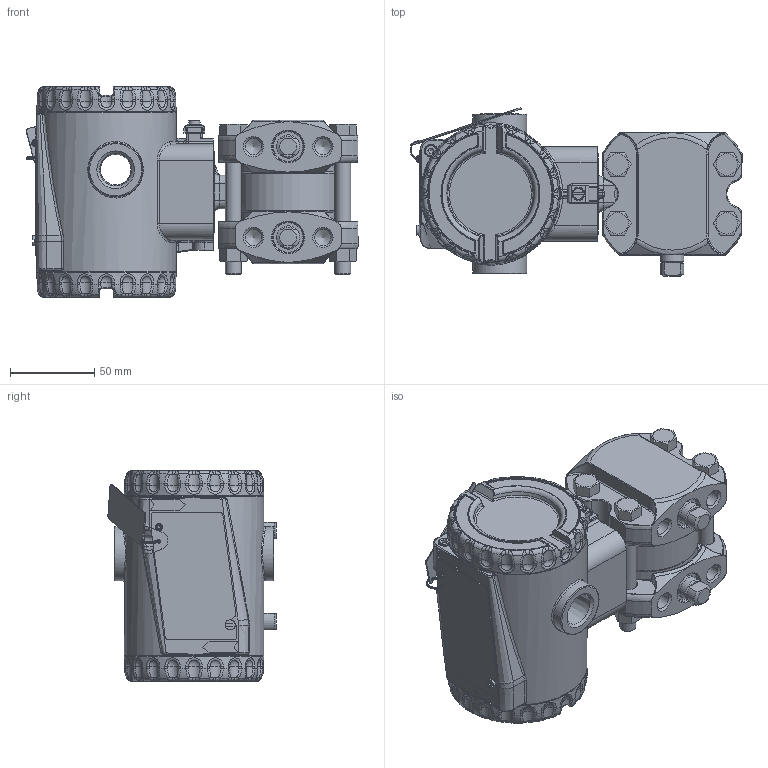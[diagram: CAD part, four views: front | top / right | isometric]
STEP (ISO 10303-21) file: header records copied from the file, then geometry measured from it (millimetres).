
FILE_DESCRIPTION(/* description */ (''),/* implementation_level */ '2;1');
FILE_NAME(/* name */ 'F:\Area\Desenvolvimento_2\Projects\Sensor\projetos\LD400-3d\dimensionais 3D clientes\LD400D0-3 1-4NPT monel sem purga.stp',/* time_stamp */ '2023-02-02T10:29:11-03:00',/* author */ ('inventor02'),/* organization */ (''),/* preprocessor_version */ 'ST-DEVELOPER v17',/* originating_system */ 'Autodesk Inventor 2019',/* authorisation */ '');
FILE_SCHEMA (('CONFIG_CONTROL_DESIGN'));
Products named in the file (28): LD400D0-3 1-4NPT monel sem purga; Carcaça 400 com tampas e plaqueta sem letras; 101-D-0845-05 carcaça LD400 sem letras; 101-B-3614-03-tampa 400 sem letras; Tampa visor 400 montada sem letras; 101-B-3612-05 tampa visor 400 sem letras; 101-A-6107; oring 2034; 00034775-0; WHW_250; DIN 915 - M6 x 10; Chapa aterramento externo; 201-A-1771-02 inserto terra recartilhado; AS 1969 - ST4,2; ISO 1207 - M4 x 8; ANSI B18.3.1M - M4x0,7 x 8; Subconjunto plaqueta 400; plaqueta 400 em branco; Parafuso da Plaqueta; Rebite da Plaqueta; 096-A-0169-03; 101-A-0502-01; diferencial FX0-3 monel sem purga; involucro fx0-3 apos a usinagem final; bujao 1-4NPT; 101-C-0040-05 monel barra 7-16; Paraf. 3-8 x 16 UNC; Porca 3-8 x 16 UNC
Assembly tree (36 placements, depth 4):
  LD400D0-3 1-4NPT monel sem purga
    Carcaça 400 com tampas e plaqueta sem letras
      101-D-0845-05 carcaça LD400 sem letras
      101-B-3614-03-tampa 400 sem letras
      Tampa visor 400 montada sem letras
        101-B-3612-05 tampa visor 400 sem letras
        101-A-6107
        oring 2034
        00034775-0
        WHW_250
      DIN 915 - M6 x 10
      Chapa aterramento externo
      201-A-1771-02 inserto terra recartilhado
      AS 1969 - ST4,2
      ISO 1207 - M4 x 8
      ANSI B18.3.1M - M4x0,7 x 8  x2
      Subconjunto plaqueta 400
        plaqueta 400 em branco
        Parafuso da Plaqueta
        Rebite da Plaqueta
        096-A-0169-03
        101-A-0502-01
    diferencial FX0-3 monel sem purga
      involucro fx0-3 apos a usinagem final
      bujao 1-4NPT  x2
      101-C-0040-05 monel barra 7-16  x2
      Paraf. 3-8 x 16 UNC  x4
      Porca 3-8 x 16 UNC  x4
Bounding box: 197.25 x 99.89 x 125 mm (x, y, z)
Volume: 663491 mm3; surface area: 238105.2 mm2
Topology: 32 solids, 32 shells, 2251 faces, 5527 edges, 3333 vertices
Faces by surface type: plane 601, bspline 527, cylinder 491, torus 352, cone 227, sphere 53
Full cylindrical faces by diameter (mm): 2 x2, 2.1 x1, 2.2 x1, 2.459 x3, 2.7 x1, 3 x1, 3.242 x3, 3.571 x1, 4 x4, 4.3 x2, 4.4 x1, 4.917 x1, 5 x4, 6 x2, 6.1 x2, 6.2 x1, 7 x2, 7.6 x2, 7.798 x4, 9.525 x4, 9.728 x8, 10.5 x8, 10.719 x4, 12 x2, 13.8 x2, 14 x1, 18.3 x2, 18.5 x4, 26 x2, 32 x2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
Entity records: 74856 total; most frequent: CARTESIAN_POINT 30289, ORIENTED_EDGE 9360, DIRECTION 8880, EDGE_CURVE 4680, AXIS2_PLACEMENT_3D 3736, VERTEX_POINT 2830, CIRCLE 2145, EDGE_LOOP 2020
